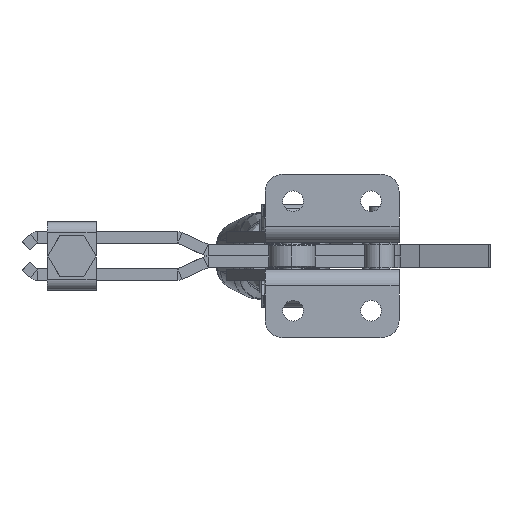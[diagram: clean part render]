
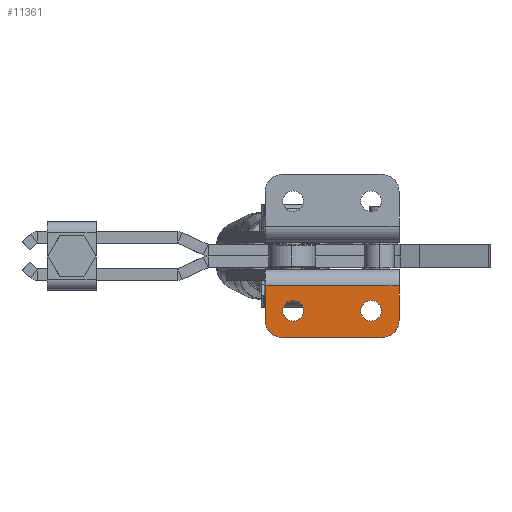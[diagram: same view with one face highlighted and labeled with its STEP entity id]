
A CAD part, front view. The second image highlights one B-rep face of the part: STEP entity #11361.
In plain terms, the highlighted planar face has unit normal (0, -1, 0).
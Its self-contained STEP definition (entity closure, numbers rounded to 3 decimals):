
#39 = VERTEX_POINT ( 'NONE', #9652 ) ;
#544 = CIRCLE ( 'NONE', #16275, 4.25 ) ;
#1155 = CIRCLE ( 'NONE', #8358, 4.25 ) ;
#1419 = DIRECTION ( 'NONE',  ( 1., 0., 0. ) ) ;
#1486 = ORIENTED_EDGE ( 'NONE', *, *, #23488, .F. ) ;
#1640 = EDGE_LOOP ( 'NONE', ( #16504, #7029 ) ) ;
#1716 = DIRECTION ( 'NONE',  ( 0., 1., 0. ) ) ;
#1736 = CARTESIAN_POINT ( 'NONE',  ( 27.5, 21.37, 16.248 ) ) ;
#1985 = CARTESIAN_POINT ( 'NONE',  ( -27.5, 21.37, 2. ) ) ;
#2218 = CARTESIAN_POINT ( 'NONE',  ( -20.25, 21.37, 12.248 ) ) ;
#2271 = DIRECTION ( 'NONE',  ( 0., 1., 0. ) ) ;
#2291 = DIRECTION ( 'NONE',  ( 0., 1., 0. ) ) ;
#2439 = VERTEX_POINT ( 'NONE', #14616 ) ;
#2902 = CARTESIAN_POINT ( 'NONE',  ( -16., 21.37, 12.248 ) ) ;
#3179 = CIRCLE ( 'NONE', #26857, 7. ) ;
#3449 = LINE ( 'NONE', #6206, #7082 ) ;
#3489 = VECTOR ( 'NONE', #5775, 1000. ) ;
#3967 = DIRECTION ( 'NONE',  ( 0., 1., 0. ) ) ;
#4072 = CIRCLE ( 'NONE', #19570, 7. ) ;
#4447 = VERTEX_POINT ( 'NONE', #26533 ) ;
#4581 = LINE ( 'NONE', #24146, #8879 ) ;
#5019 = DIRECTION ( 'NONE',  ( 1., 0., 0. ) ) ;
#5775 = DIRECTION ( 'NONE',  ( 1., 0., 0. ) ) ;
#6206 = CARTESIAN_POINT ( 'NONE',  ( -27.5, 21.37, -58.112 ) ) ;
#6260 = CARTESIAN_POINT ( 'NONE',  ( 38.5, 21.37, 2. ) ) ;
#6365 = VERTEX_POINT ( 'NONE', #22064 ) ;
#6712 = AXIS2_PLACEMENT_3D ( 'NONE', #14934, #2291, #17050 ) ;
#6757 = EDGE_CURVE ( 'NONE', #24718, #18576, #4072, .T. ) ;
#7029 = ORIENTED_EDGE ( 'NONE', *, *, #15120, .T. ) ;
#7082 = VECTOR ( 'NONE', #14646, 1000. ) ;
#7313 = EDGE_CURVE ( 'NONE', #4447, #17784, #17893, .T. ) ;
#8358 = AXIS2_PLACEMENT_3D ( 'NONE', #26698, #14068, #1419 ) ;
#8879 = VECTOR ( 'NONE', #24228, 1000. ) ;
#9652 = CARTESIAN_POINT ( 'NONE',  ( 11.75, 21.37, 12.248 ) ) ;
#10382 = VERTEX_POINT ( 'NONE', #2218 ) ;
#11361 = ADVANCED_FACE ( 'NONE', ( #26368, #27038, #15816 ), #25358, .F. ) ;
#11691 = ORIENTED_EDGE ( 'NONE', *, *, #7313, .F. ) ;
#11939 = DIRECTION ( 'NONE',  ( 0., 1., 0. ) ) ;
#12613 = CIRCLE ( 'NONE', #26568, 4.25 ) ;
#12706 = ORIENTED_EDGE ( 'NONE', *, *, #14319, .F. ) ;
#12929 = EDGE_CURVE ( 'NONE', #18634, #4447, #4581, .T. ) ;
#12979 = VECTOR ( 'NONE', #14807, 1000. ) ;
#13689 = CIRCLE ( 'NONE', #14816, 4.25 ) ;
#13831 = EDGE_LOOP ( 'NONE', ( #14011, #19559 ) ) ;
#14011 = ORIENTED_EDGE ( 'NONE', *, *, #23883, .T. ) ;
#14068 = DIRECTION ( 'NONE',  ( 0., 1., 0. ) ) ;
#14275 = CARTESIAN_POINT ( 'NONE',  ( 20.5, 21.37, 23.248 ) ) ;
#14319 = EDGE_CURVE ( 'NONE', #22995, #18634, #3179, .T. ) ;
#14374 = CARTESIAN_POINT ( 'NONE',  ( 20.5, 21.37, 16.248 ) ) ;
#14616 = CARTESIAN_POINT ( 'NONE',  ( -11.75, 21.37, 12.248 ) ) ;
#14646 = DIRECTION ( 'NONE',  ( 0., 0., 1. ) ) ;
#14807 = DIRECTION ( 'NONE',  ( -1., 0., 0. ) ) ;
#14816 = AXIS2_PLACEMENT_3D ( 'NONE', #24571, #11939, #26678 ) ;
#14918 = CARTESIAN_POINT ( 'NONE',  ( 16., 21.37, 12.248 ) ) ;
#14934 = CARTESIAN_POINT ( 'NONE',  ( 38.5, 21.37, -58.112 ) ) ;
#15120 = EDGE_CURVE ( 'NONE', #10382, #2439, #1155, .T. ) ;
#15575 = EDGE_CURVE ( 'NONE', #2439, #10382, #544, .T. ) ;
#15816 = FACE_BOUND ( 'NONE', #1640, .T. ) ;
#16275 = AXIS2_PLACEMENT_3D ( 'NONE', #2902, #17630, #5019 ) ;
#16326 = CARTESIAN_POINT ( 'NONE',  ( -20.5, 21.37, 23.248 ) ) ;
#16490 = DIRECTION ( 'NONE',  ( 1., 0., 0. ) ) ;
#16504 = ORIENTED_EDGE ( 'NONE', *, *, #15575, .T. ) ;
#16575 = CARTESIAN_POINT ( 'NONE',  ( -20.5, 21.37, 16.248 ) ) ;
#17023 = DIRECTION ( 'NONE',  ( 1., 0., 0. ) ) ;
#17050 = DIRECTION ( 'NONE',  ( 1., 0., 0. ) ) ;
#17280 = EDGE_CURVE ( 'NONE', #17784, #24718, #3449, .T. ) ;
#17630 = DIRECTION ( 'NONE',  ( 0., 1., 0. ) ) ;
#17784 = VERTEX_POINT ( 'NONE', #1985 ) ;
#17893 = LINE ( 'NONE', #6260, #12979 ) ;
#18396 = CARTESIAN_POINT ( 'NONE',  ( 38.5, 21.37, 23.248 ) ) ;
#18576 = VERTEX_POINT ( 'NONE', #16326 ) ;
#18634 = VERTEX_POINT ( 'NONE', #1736 ) ;
#18725 = DIRECTION ( 'NONE',  ( 1., 0., 0. ) ) ;
#19150 = EDGE_CURVE ( 'NONE', #39, #6365, #12613, .T. ) ;
#19166 = ORIENTED_EDGE ( 'NONE', *, *, #6757, .F. ) ;
#19559 = ORIENTED_EDGE ( 'NONE', *, *, #19150, .T. ) ;
#19570 = AXIS2_PLACEMENT_3D ( 'NONE', #16575, #3967, #18725 ) ;
#19660 = LINE ( 'NONE', #18396, #3489 ) ;
#21084 = ORIENTED_EDGE ( 'NONE', *, *, #17280, .F. ) ;
#21111 = ORIENTED_EDGE ( 'NONE', *, *, #12929, .F. ) ;
#21519 = CARTESIAN_POINT ( 'NONE',  ( -27.5, 21.37, 16.248 ) ) ;
#21608 = EDGE_LOOP ( 'NONE', ( #11691, #21111, #12706, #1486, #19166, #21084 ) ) ;
#22064 = CARTESIAN_POINT ( 'NONE',  ( 20.25, 21.37, 12.248 ) ) ;
#22995 = VERTEX_POINT ( 'NONE', #14275 ) ;
#23488 = EDGE_CURVE ( 'NONE', #18576, #22995, #19660, .T. ) ;
#23883 = EDGE_CURVE ( 'NONE', #6365, #39, #13689, .T. ) ;
#24146 = CARTESIAN_POINT ( 'NONE',  ( 27.5, 21.37, -58.112 ) ) ;
#24228 = DIRECTION ( 'NONE',  ( 0., 0., -1. ) ) ;
#24571 = CARTESIAN_POINT ( 'NONE',  ( 16., 21.37, 12.248 ) ) ;
#24718 = VERTEX_POINT ( 'NONE', #21519 ) ;
#25358 = PLANE ( 'NONE',  #6712 ) ;
#26368 = FACE_OUTER_BOUND ( 'NONE', #21608, .T. ) ;
#26533 = CARTESIAN_POINT ( 'NONE',  ( 27.5, 21.37, 2. ) ) ;
#26568 = AXIS2_PLACEMENT_3D ( 'NONE', #14918, #2271, #17023 ) ;
#26678 = DIRECTION ( 'NONE',  ( 1., 0., 0. ) ) ;
#26698 = CARTESIAN_POINT ( 'NONE',  ( -16., 21.37, 12.248 ) ) ;
#26857 = AXIS2_PLACEMENT_3D ( 'NONE', #14374, #1716, #16490 ) ;
#27038 = FACE_BOUND ( 'NONE', #13831, .T. ) ;
